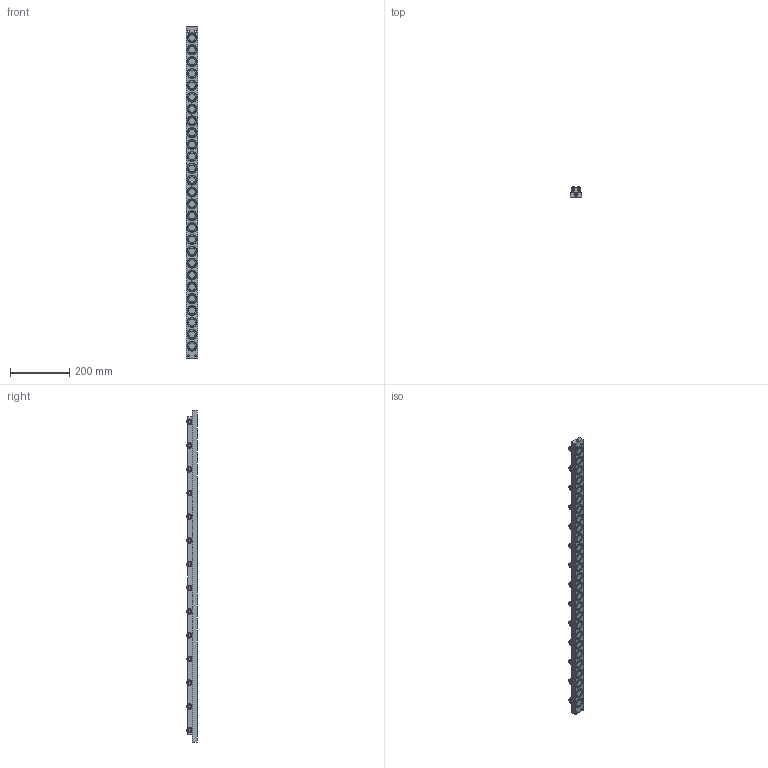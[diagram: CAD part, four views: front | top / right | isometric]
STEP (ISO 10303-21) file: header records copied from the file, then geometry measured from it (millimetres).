
FILE_DESCRIPTION (( 'STEP AP203' ), '1' );
FILE_NAME ('PVLR30S-14.STEP', '2015-12-22T06:38:32', ( '' ), ( '' ), 'SwSTEP 2.0', 'SolidWorks 2013', '' );
FILE_SCHEMA (( 'CONFIG_CONTROL_DESIGN' ));
Length unit declared in the file: millimetre
Products named in the file (1): PVLR30S-14
Bounding box: 38 x 36 x 1120 mm (x, y, z)
Volume: 934122.1 mm3; surface area: 195423.9 mm2
Topology: 3 solids, 3 shells, 1505 faces, 3747 edges, 2473 vertices
Faces by surface type: cylinder 906, plane 587, cone 12
Entity records: 45726 total; most frequent: DIRECTION 8739, CARTESIAN_POINT 7720, ORIENTED_EDGE 7482, EDGE_CURVE 3741, AXIS2_PLACEMENT_3D 3492, VERTEX_POINT 2473, CIRCLE 1986, LINE 1755
